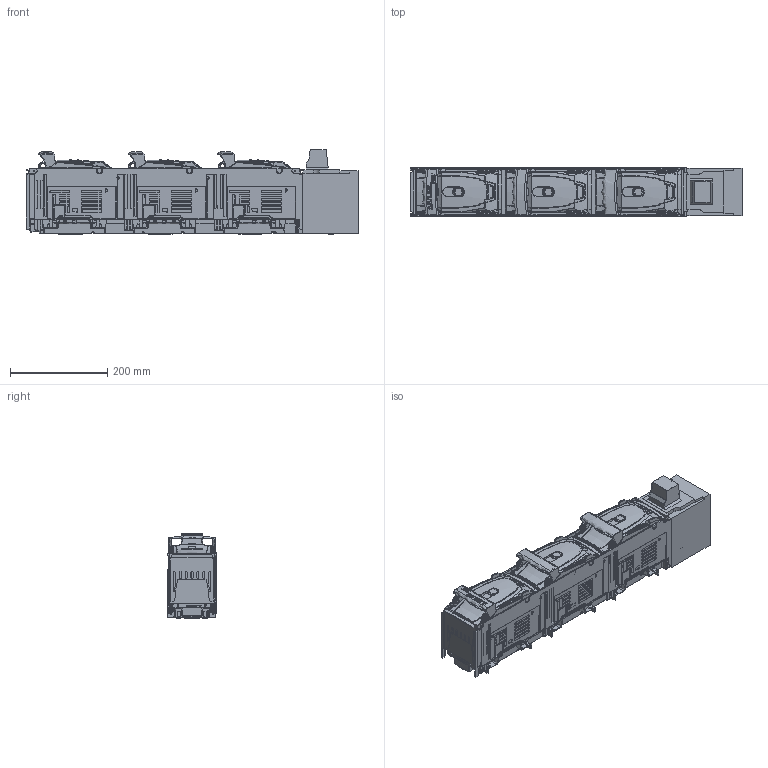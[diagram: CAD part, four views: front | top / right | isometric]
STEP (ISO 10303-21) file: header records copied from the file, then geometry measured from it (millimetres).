
FILE_DESCRIPTION(/* description */ (''),/* implementation_level */ '2;1');
FILE_NAME(/* name */ 'ARS 400-1-M.stp',/* time_stamp */ '2018-07-16T09:21:08+02:00',/* author */ (''),/* organization */ (''),/* preprocessor_version */ 'ST-DEVELOPER v16',/* originating_system */ 'SIEMENS PLM Software NX 10.0',/* authorisation */ '');
FILE_SCHEMA (('AUTOMOTIVE_DESIGN { 1 0 10303 214 3 1 1 1 }'));
Products named in the file (1): 710_0AD4EC05y3f5
Bounding box: 683.76 x 99.58 x 174.95 mm (x, y, z)
Volume: 7560374.9 mm3; surface area: 630886.6 mm2
Topology: 1 solids, 16 shells, 11902 faces, 31359 edges, 19361 vertices
Faces by surface type: plane 4189, bspline 3590, cylinder 3227, torus 305, sphere 296, cone 208, extrusion 87
Full cylindrical faces by diameter (mm): 1.7 x12, 2.263 x2, 3.5 x4, 3.7 x4, 5 x1, 6 x1, 9.732 x6, 14 x1, 14.63 x3
Entity records: 500920 total; most frequent: CARTESIAN_POINT 245748, ORIENTED_EDGE 61880, DIRECTION 41976, EDGE_CURVE 30940, VERTEX_POINT 19316, VECTOR 14132, LINE 14045, AXIS2_PLACEMENT_3D 13922
